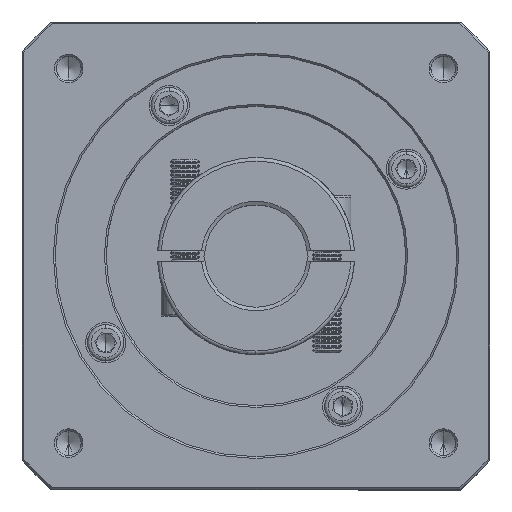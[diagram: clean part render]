
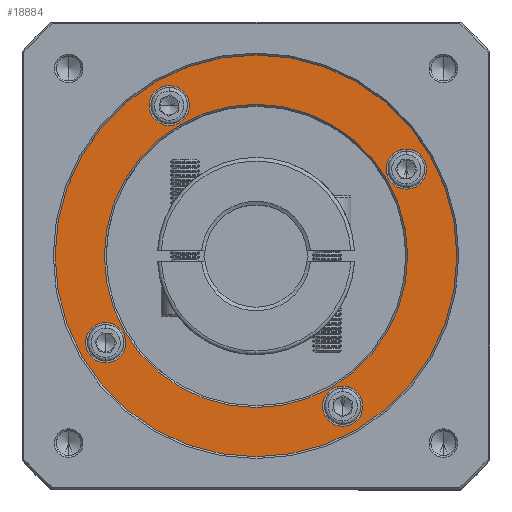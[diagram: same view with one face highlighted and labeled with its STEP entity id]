
A CAD part, top view. The second image highlights one B-rep face of the part: STEP entity #18884.
In plain terms, the highlighted planar face has unit normal (0, 0, 1).
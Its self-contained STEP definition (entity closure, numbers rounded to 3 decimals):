
#1406 = EDGE_CURVE ( 'NONE', #47163, #119808, #114152, .T. ) ;
#1815 = DIRECTION ( 'NONE',  ( 0., -1., 0. ) ) ;
#1975 = VERTEX_POINT ( 'NONE', #86234 ) ;
#3050 = EDGE_CURVE ( 'NONE', #35890, #1975, #108825, .T. ) ;
#3979 = EDGE_CURVE ( 'NONE', #55935, #60590, #28232, .T. ) ;
#5134 = EDGE_LOOP ( 'NONE', ( #25349, #108098 ) ) ;
#6280 = ORIENTED_EDGE ( 'NONE', *, *, #3050, .T. ) ;
#6510 = CARTESIAN_POINT ( 'NONE',  ( 85.526, 71.614, -11.393 ) ) ;
#7250 = EDGE_LOOP ( 'NONE', ( #75873, #112638 ) ) ;
#8768 = DIRECTION ( 'NONE',  ( 0., -1., 0. ) ) ;
#8960 = FACE_BOUND ( 'NONE', #100407, .T. ) ;
#10066 = DIRECTION ( 'NONE',  ( 0., 0., -1. ) ) ;
#11439 = CARTESIAN_POINT ( 'NONE',  ( 85.526, 66.114, -11.393 ) ) ;
#11558 = ORIENTED_EDGE ( 'NONE', *, *, #14163, .T. ) ;
#13242 = AXIS2_PLACEMENT_3D ( 'NONE', #105034, #85755, #104594 ) ;
#14163 = EDGE_CURVE ( 'NONE', #1975, #35890, #52371, .T. ) ;
#15191 = DIRECTION ( 'NONE',  ( 0., -1., 0. ) ) ;
#15236 = VERTEX_POINT ( 'NONE', #11439 ) ;
#15342 = FACE_BOUND ( 'NONE', #97590, .T. ) ;
#15493 = CARTESIAN_POINT ( 'NONE',  ( 68.139, 6.728, -11.393 ) ) ;
#16282 = AXIS2_PLACEMENT_3D ( 'NONE', #111490, #58624, #19140 ) ;
#16730 = DIRECTION ( 'NONE',  ( 0., -1., 0. ) ) ;
#17632 = DIRECTION ( 'NONE',  ( 0., -1., 0. ) ) ;
#18518 = DIRECTION ( 'NONE',  ( 0., 0., 1. ) ) ;
#18884 = ADVANCED_FACE ( 'NONE', ( #20049, #45800, #87430, #93827, #15342, #8960 ), #128025, .T. ) ;
#19140 = DIRECTION ( 'NONE',  ( 0., -1., 0. ) ) ;
#19858 = CARTESIAN_POINT ( 'NONE',  ( 3.253, 24.114, -11.393 ) ) ;
#20049 = FACE_OUTER_BOUND ( 'NONE', #5134, .T. ) ;
#21169 = DIRECTION ( 'NONE',  ( 0., -1., 0. ) ) ;
#22962 = EDGE_CURVE ( 'NONE', #119808, #47163, #86729, .T. ) ;
#24585 = ORIENTED_EDGE ( 'NONE', *, *, #55347, .T. ) ;
#24766 = CIRCLE ( 'NONE', #42928, 41.5 ) ;
#25138 = VERTEX_POINT ( 'NONE', #39121 ) ;
#25349 = ORIENTED_EDGE ( 'NONE', *, *, #1406, .T. ) ;
#25983 = CARTESIAN_POINT ( 'NONE',  ( 44.389, 89.364, -11.393 ) ) ;
#28232 = CIRCLE ( 'NONE', #13242, 5.5 ) ;
#28245 = EDGE_CURVE ( 'NONE', #15236, #102903, #132033, .T. ) ;
#28549 = AXIS2_PLACEMENT_3D ( 'NONE', #122579, #112190, #40051 ) ;
#28711 = DIRECTION ( 'NONE',  ( 0., 0., 1. ) ) ;
#29725 = AXIS2_PLACEMENT_3D ( 'NONE', #90039, #28711, #110682 ) ;
#30293 = VERTEX_POINT ( 'NONE', #96540 ) ;
#31925 = ORIENTED_EDGE ( 'NONE', *, *, #54932, .T. ) ;
#35362 = CARTESIAN_POINT ( 'NONE',  ( 20.639, 89., -11.393 ) ) ;
#35486 = CARTESIAN_POINT ( 'NONE',  ( 44.389, 6.364, -11.393 ) ) ;
#35890 = VERTEX_POINT ( 'NONE', #101534 ) ;
#37284 = CIRCLE ( 'NONE', #77904, 5.5 ) ;
#39121 = CARTESIAN_POINT ( 'NONE',  ( 20.639, 94.5, -11.393 ) ) ;
#40051 = DIRECTION ( 'NONE',  ( 0., -1., 0. ) ) ;
#42225 = AXIS2_PLACEMENT_3D ( 'NONE', #15493, #77320, #78191 ) ;
#42574 = CIRCLE ( 'NONE', #69756, 41.5 ) ;
#42928 = AXIS2_PLACEMENT_3D ( 'NONE', #88768, #47561, #119311 ) ;
#45666 = AXIS2_PLACEMENT_3D ( 'NONE', #6510, #88389, #16730 ) ;
#45800 = FACE_BOUND ( 'NONE', #49413, .T. ) ;
#46939 = ORIENTED_EDGE ( 'NONE', *, *, #3979, .T. ) ;
#47163 = VERTEX_POINT ( 'NONE', #67620 ) ;
#47561 = DIRECTION ( 'NONE',  ( 0., 0., -1. ) ) ;
#48971 = ORIENTED_EDGE ( 'NONE', *, *, #54779, .T. ) ;
#49018 = CARTESIAN_POINT ( 'NONE',  ( 44.389, 47.864, -11.393 ) ) ;
#49413 = EDGE_LOOP ( 'NONE', ( #24585, #31925 ) ) ;
#50549 = CARTESIAN_POINT ( 'NONE',  ( 85.526, 71.614, -11.393 ) ) ;
#52371 = CIRCLE ( 'NONE', #119483, 5.5 ) ;
#53317 = CARTESIAN_POINT ( 'NONE',  ( 68.139, 12.228, -11.393 ) ) ;
#54779 = EDGE_CURVE ( 'NONE', #60590, #55935, #126154, .T. ) ;
#54932 = EDGE_CURVE ( 'NONE', #113799, #77489, #42574, .T. ) ;
#55347 = EDGE_CURVE ( 'NONE', #77489, #113799, #24766, .T. ) ;
#55935 = VERTEX_POINT ( 'NONE', #107907 ) ;
#57347 = AXIS2_PLACEMENT_3D ( 'NONE', #49018, #18518, #17632 ) ;
#58624 = DIRECTION ( 'NONE',  ( 0., 0., -1. ) ) ;
#59150 = CARTESIAN_POINT ( 'NONE',  ( 85.526, 77.114, -11.393 ) ) ;
#60590 = VERTEX_POINT ( 'NONE', #53317 ) ;
#66370 = EDGE_CURVE ( 'NONE', #30293, #25138, #37284, .T. ) ;
#67620 = CARTESIAN_POINT ( 'NONE',  ( 44.389, -7.136, -11.393 ) ) ;
#69756 = AXIS2_PLACEMENT_3D ( 'NONE', #110435, #120811, #8768 ) ;
#73187 = EDGE_CURVE ( 'NONE', #25138, #30293, #115129, .T. ) ;
#75873 = ORIENTED_EDGE ( 'NONE', *, *, #28245, .T. ) ;
#77320 = DIRECTION ( 'NONE',  ( 0., 0., -1. ) ) ;
#77489 = VERTEX_POINT ( 'NONE', #35486 ) ;
#77904 = AXIS2_PLACEMENT_3D ( 'NONE', #35362, #116946, #15191 ) ;
#78191 = DIRECTION ( 'NONE',  ( 0., -1., 0. ) ) ;
#83749 = DIRECTION ( 'NONE',  ( 0., 0., 1. ) ) ;
#85755 = DIRECTION ( 'NONE',  ( 0., 0., -1. ) ) ;
#86234 = CARTESIAN_POINT ( 'NONE',  ( 3.253, 29.614, -11.393 ) ) ;
#86250 = ORIENTED_EDGE ( 'NONE', *, *, #66370, .T. ) ;
#86729 = CIRCLE ( 'NONE', #29725, 55. ) ;
#87430 = FACE_BOUND ( 'NONE', #96194, .T. ) ;
#88389 = DIRECTION ( 'NONE',  ( 0., 0., -1. ) ) ;
#88768 = CARTESIAN_POINT ( 'NONE',  ( 44.389, 47.864, -11.393 ) ) ;
#90039 = CARTESIAN_POINT ( 'NONE',  ( 44.389, 47.864, -11.393 ) ) ;
#90833 = DIRECTION ( 'NONE',  ( 0., -1., 0. ) ) ;
#93827 = FACE_BOUND ( 'NONE', #7250, .T. ) ;
#96194 = EDGE_LOOP ( 'NONE', ( #46939, #48971 ) ) ;
#96540 = CARTESIAN_POINT ( 'NONE',  ( 20.639, 83.5, -11.393 ) ) ;
#97590 = EDGE_LOOP ( 'NONE', ( #6280, #11558 ) ) ;
#99518 = CIRCLE ( 'NONE', #45666, 5.5 ) ;
#100407 = EDGE_LOOP ( 'NONE', ( #86250, #111178 ) ) ;
#101534 = CARTESIAN_POINT ( 'NONE',  ( 3.253, 18.614, -11.393 ) ) ;
#102903 = VERTEX_POINT ( 'NONE', #59150 ) ;
#104594 = DIRECTION ( 'NONE',  ( 0., -1., 0. ) ) ;
#105034 = CARTESIAN_POINT ( 'NONE',  ( 68.139, 6.728, -11.393 ) ) ;
#105444 = AXIS2_PLACEMENT_3D ( 'NONE', #124633, #83749, #1815 ) ;
#107907 = CARTESIAN_POINT ( 'NONE',  ( 68.139, 1.228, -11.393 ) ) ;
#108098 = ORIENTED_EDGE ( 'NONE', *, *, #22962, .T. ) ;
#108825 = CIRCLE ( 'NONE', #28549, 5.5 ) ;
#110435 = CARTESIAN_POINT ( 'NONE',  ( 44.389, 47.864, -11.393 ) ) ;
#110463 = CARTESIAN_POINT ( 'NONE',  ( 44.389, 102.864, -11.393 ) ) ;
#110682 = DIRECTION ( 'NONE',  ( 0., -1., 0. ) ) ;
#111178 = ORIENTED_EDGE ( 'NONE', *, *, #73187, .T. ) ;
#111490 = CARTESIAN_POINT ( 'NONE',  ( 20.639, 89., -11.393 ) ) ;
#112190 = DIRECTION ( 'NONE',  ( 0., 0., -1. ) ) ;
#112638 = ORIENTED_EDGE ( 'NONE', *, *, #118081, .T. ) ;
#112722 = AXIS2_PLACEMENT_3D ( 'NONE', #50549, #133010, #90833 ) ;
#113799 = VERTEX_POINT ( 'NONE', #25983 ) ;
#114152 = CIRCLE ( 'NONE', #105444, 55. ) ;
#115129 = CIRCLE ( 'NONE', #16282, 5.5 ) ;
#116946 = DIRECTION ( 'NONE',  ( 0., 0., -1. ) ) ;
#118081 = EDGE_CURVE ( 'NONE', #102903, #15236, #99518, .T. ) ;
#119311 = DIRECTION ( 'NONE',  ( 0., -1., 0. ) ) ;
#119483 = AXIS2_PLACEMENT_3D ( 'NONE', #19858, #10066, #21169 ) ;
#119808 = VERTEX_POINT ( 'NONE', #110463 ) ;
#120811 = DIRECTION ( 'NONE',  ( 0., 0., -1. ) ) ;
#122579 = CARTESIAN_POINT ( 'NONE',  ( 3.253, 24.114, -11.393 ) ) ;
#124633 = CARTESIAN_POINT ( 'NONE',  ( 44.389, 47.864, -11.393 ) ) ;
#126154 = CIRCLE ( 'NONE', #42225, 5.5 ) ;
#128025 = PLANE ( 'NONE',  #57347 ) ;
#132033 = CIRCLE ( 'NONE', #112722, 5.5 ) ;
#133010 = DIRECTION ( 'NONE',  ( 0., 0., -1. ) ) ;
